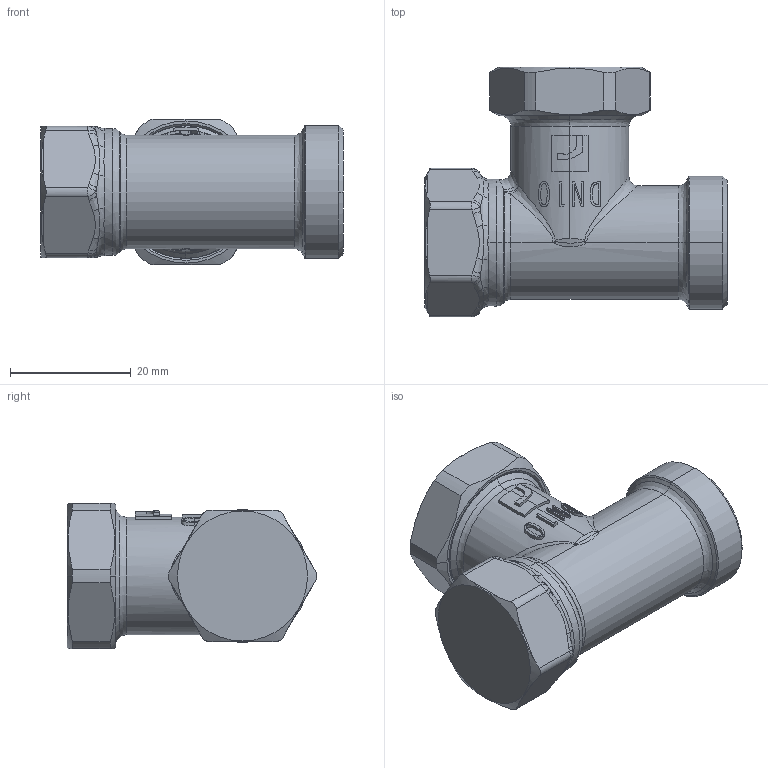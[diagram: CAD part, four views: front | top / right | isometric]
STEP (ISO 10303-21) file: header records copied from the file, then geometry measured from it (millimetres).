
FILE_DESCRIPTION (( 'STEP AP214' ), '1' );
FILE_NAME ('443510.STEP', '2021-07-07T12:14:51', ( '' ), ( '' ), 'SwSTEP 2.0', 'SolidWorks 2016', '' );
FILE_SCHEMA (( 'AUTOMOTIVE_DESIGN' ));
Length unit declared in the file: millimetre
Products named in the file (1): 443510
Bounding box: 50 x 41.3 x 24 mm (x, y, z)
Volume: 23946.8 mm3; surface area: 5857.5 mm2
Topology: 1 solids, 1 shells, 211 faces, 526 edges, 316 vertices
Faces by surface type: bspline 104, plane 47, cylinder 37, cone 23
Entity records: 10282 total; most frequent: CARTESIAN_POINT 6020, ORIENTED_EDGE 1036, DIRECTION 686, EDGE_CURVE 518, VERTEX_POINT 316, AXIS2_PLACEMENT_3D 277, EDGE_LOOP 218, ADVANCED_FACE 211
